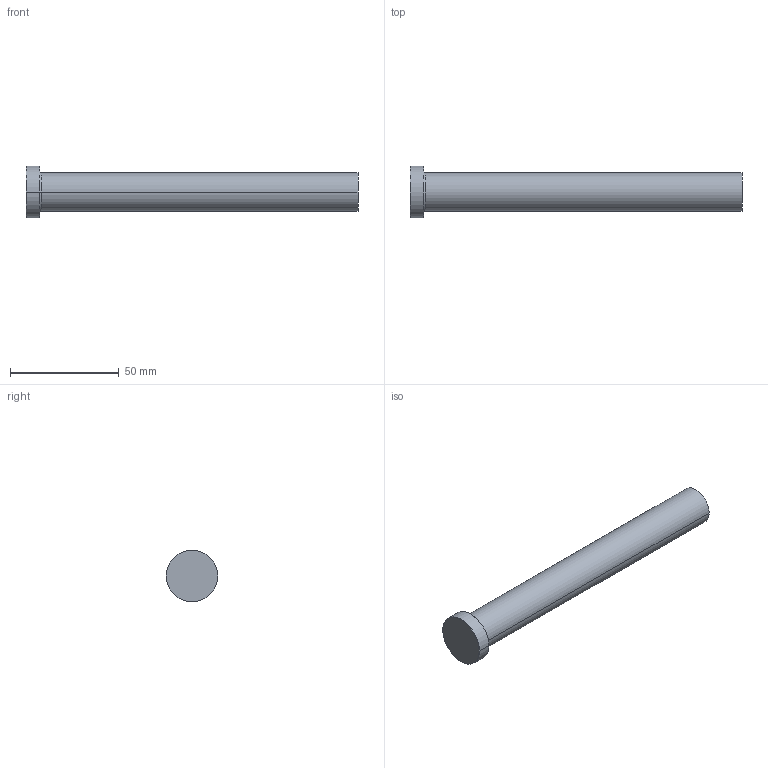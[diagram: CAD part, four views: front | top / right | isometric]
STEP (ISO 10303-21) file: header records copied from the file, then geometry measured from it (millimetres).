
FILE_DESCRIPTION (( 'STEP AP214' ), '1' );
FILE_NAME ('P39-6.STEP', '2020-03-12T12:10:59', ( '' ), ( '' ), 'SwSTEP 2.0', 'SolidWorks 2018', '' );
FILE_SCHEMA (( 'AUTOMOTIVE_DESIGN' ));
Length unit declared in the file: inch
Products named in the file (1): P39-6
Bounding box: 152.4 x 23.81 x 23.81 mm (x, y, z)
Volume: 37762 mm3; surface area: 9345.6 mm2
Topology: 1 solids, 1 shells, 13 faces, 24 edges, 14 vertices
Faces by surface type: cone 4, cylinder 4, plane 3, torus 2
Entity records: 366 total; most frequent: DIRECTION 68, CARTESIAN_POINT 52, ORIENTED_EDGE 48, AXIS2_PLACEMENT_3D 30, EDGE_CURVE 24, CIRCLE 16, EDGE_LOOP 14, VERTEX_POINT 14
